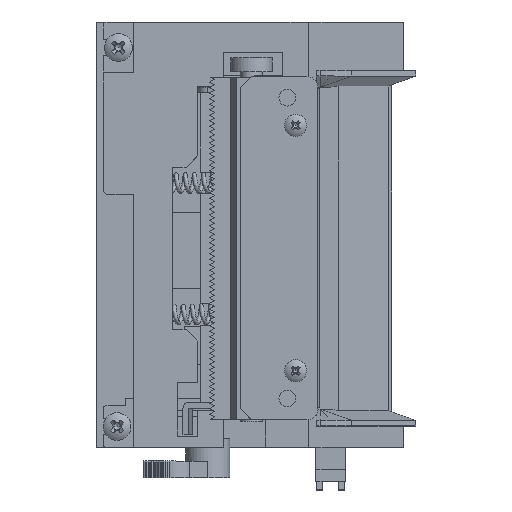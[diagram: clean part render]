
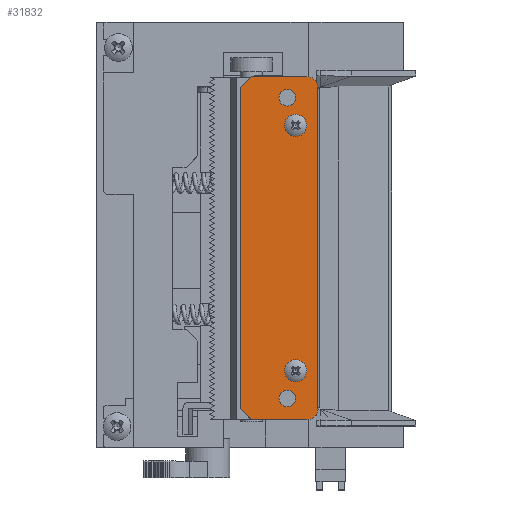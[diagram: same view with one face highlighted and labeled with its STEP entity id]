
A CAD part, top view. The second image highlights one B-rep face of the part: STEP entity #31832.
In plain terms, the highlighted planar face has unit normal (0, 0, 1).
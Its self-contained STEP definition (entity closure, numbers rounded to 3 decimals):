
#1844=FACE_BOUND('',#6540,.T.);
#1845=FACE_BOUND('',#6541,.T.);
#1846=FACE_BOUND('',#6542,.T.);
#1847=FACE_BOUND('',#6543,.T.);
#3037=PLANE('',#34485);
#4692=FACE_OUTER_BOUND('',#6539,.T.);
#6539=EDGE_LOOP('',(#29669,#29670,#29671,#29672,#29673,#29674,#29675,#29676));
#6540=EDGE_LOOP('',(#29677,#29678));
#6541=EDGE_LOOP('',(#29679,#29680));
#6542=EDGE_LOOP('',(#29681));
#6543=EDGE_LOOP('',(#29682));
#9859=LINE('',#59002,#13125);
#9862=LINE('',#59007,#13128);
#9866=LINE('',#59017,#13132);
#9870=LINE('',#59026,#13136);
#9872=LINE('',#59030,#13138);
#9873=LINE('',#59031,#13139);
#13125=VECTOR('',#42567,10.);
#13128=VECTOR('',#42572,10.);
#13132=VECTOR('',#42582,10.);
#13136=VECTOR('',#42592,10.);
#13138=VECTOR('',#42598,10.);
#13139=VECTOR('',#42599,10.);
#13960=CIRCLE('',#34318,2.);
#13961=CIRCLE('',#34319,2.);
#13994=CIRCLE('',#34379,2.);
#13995=CIRCLE('',#34380,2.);
#14045=CIRCLE('',#34470,1.5);
#14046=CIRCLE('',#34472,1.5);
#14048=CIRCLE('',#34479,2.);
#14049=CIRCLE('',#34482,2.);
#16789=VERTEX_POINT('',#57637);
#16790=VERTEX_POINT('',#57638);
#16838=VERTEX_POINT('',#58278);
#16839=VERTEX_POINT('',#58279);
#16904=VERTEX_POINT('',#58982);
#16905=VERTEX_POINT('',#58986);
#16909=VERTEX_POINT('',#58999);
#16910=VERTEX_POINT('',#59001);
#16911=VERTEX_POINT('',#59006);
#16912=VERTEX_POINT('',#59010);
#16913=VERTEX_POINT('',#59012);
#16914=VERTEX_POINT('',#59016);
#16915=VERTEX_POINT('',#59020);
#16916=VERTEX_POINT('',#59024);
#21036=EDGE_CURVE('',#16789,#16790,#13960,.T.);
#21037=EDGE_CURVE('',#16790,#16789,#13961,.T.);
#21109=EDGE_CURVE('',#16838,#16839,#13994,.T.);
#21110=EDGE_CURVE('',#16839,#16838,#13995,.T.);
#21216=EDGE_CURVE('',#16904,#16904,#14045,.T.);
#21218=EDGE_CURVE('',#16905,#16905,#14046,.T.);
#21224=EDGE_CURVE('',#16910,#16909,#9859,.T.);
#21227=EDGE_CURVE('',#16911,#16910,#9862,.T.);
#21230=EDGE_CURVE('',#16913,#16912,#14048,.T.);
#21232=EDGE_CURVE('',#16914,#16913,#9866,.T.);
#21234=EDGE_CURVE('',#16915,#16914,#14049,.T.);
#21237=EDGE_CURVE('',#16909,#16916,#9870,.T.);
#21239=EDGE_CURVE('',#16916,#16915,#9872,.T.);
#21240=EDGE_CURVE('',#16912,#16911,#9873,.T.);
#29669=ORIENTED_EDGE('',*,*,#21237,.T.);
#29670=ORIENTED_EDGE('',*,*,#21239,.T.);
#29671=ORIENTED_EDGE('',*,*,#21234,.T.);
#29672=ORIENTED_EDGE('',*,*,#21232,.T.);
#29673=ORIENTED_EDGE('',*,*,#21230,.T.);
#29674=ORIENTED_EDGE('',*,*,#21240,.T.);
#29675=ORIENTED_EDGE('',*,*,#21227,.T.);
#29676=ORIENTED_EDGE('',*,*,#21224,.T.);
#29677=ORIENTED_EDGE('',*,*,#21036,.T.);
#29678=ORIENTED_EDGE('',*,*,#21037,.T.);
#29679=ORIENTED_EDGE('',*,*,#21109,.T.);
#29680=ORIENTED_EDGE('',*,*,#21110,.T.);
#29681=ORIENTED_EDGE('',*,*,#21216,.T.);
#29682=ORIENTED_EDGE('',*,*,#21218,.T.);
#31832=ADVANCED_FACE('',(#4692,#1844,#1845,#1846,#1847),#3037,.T.);
#34318=AXIS2_PLACEMENT_3D('',#57639,#42197,#42198);
#34319=AXIS2_PLACEMENT_3D('',#57640,#42199,#42200);
#34379=AXIS2_PLACEMENT_3D('',#58280,#42334,#42335);
#34380=AXIS2_PLACEMENT_3D('',#58281,#42336,#42337);
#34470=AXIS2_PLACEMENT_3D('',#58984,#42548,#42549);
#34472=AXIS2_PLACEMENT_3D('',#58988,#42553,#42554);
#34479=AXIS2_PLACEMENT_3D('',#59013,#42577,#42578);
#34482=AXIS2_PLACEMENT_3D('',#59021,#42586,#42587);
#34485=AXIS2_PLACEMENT_3D('',#59029,#42596,#42597);
#42197=DIRECTION('center_axis',(0.,0.,-1.));
#42198=DIRECTION('ref_axis',(1.,0.,0.));
#42199=DIRECTION('center_axis',(0.,0.,-1.));
#42200=DIRECTION('ref_axis',(1.,0.,0.));
#42334=DIRECTION('center_axis',(0.,0.,-1.));
#42335=DIRECTION('ref_axis',(1.,0.,0.));
#42336=DIRECTION('center_axis',(0.,0.,-1.));
#42337=DIRECTION('ref_axis',(1.,0.,0.));
#42548=DIRECTION('center_axis',(0.,0.,-1.));
#42549=DIRECTION('ref_axis',(1.,0.,0.));
#42553=DIRECTION('center_axis',(0.,0.,-1.));
#42554=DIRECTION('ref_axis',(1.,0.,0.));
#42567=DIRECTION('',(0.,-1.,0.));
#42572=DIRECTION('',(-0.707,-0.707,0.));
#42577=DIRECTION('center_axis',(0.,0.,1.));
#42578=DIRECTION('ref_axis',(-1.,0.,0.));
#42582=DIRECTION('',(0.,1.,0.));
#42586=DIRECTION('center_axis',(0.,0.,1.));
#42587=DIRECTION('ref_axis',(0.,1.,0.));
#42592=DIRECTION('',(0.707,-0.707,0.));
#42596=DIRECTION('center_axis',(0.,0.,1.));
#42597=DIRECTION('ref_axis',(-1.,0.,0.));
#42598=DIRECTION('',(1.,0.,0.));
#42599=DIRECTION('',(-1.,0.,0.));
#57637=CARTESIAN_POINT('',(0.429,53.15,12.145));
#57638=CARTESIAN_POINT('',(-3.571,53.15,12.145));
#57639=CARTESIAN_POINT('Origin',(-1.571,53.15,12.145));
#57640=CARTESIAN_POINT('Origin',(-1.571,53.15,12.145));
#58278=CARTESIAN_POINT('',(0.429,8.85,12.145));
#58279=CARTESIAN_POINT('',(-3.571,8.85,12.145));
#58280=CARTESIAN_POINT('Origin',(-1.571,8.85,12.145));
#58281=CARTESIAN_POINT('Origin',(-1.571,8.85,12.145));
#58982=CARTESIAN_POINT('',(-4.571,58.15,12.145));
#58984=CARTESIAN_POINT('Origin',(-3.071,58.15,12.145));
#58986=CARTESIAN_POINT('',(-4.571,3.85,12.145));
#58988=CARTESIAN_POINT('Origin',(-3.071,3.85,12.145));
#58999=CARTESIAN_POINT('',(-11.571,2.,12.145));
#59001=CARTESIAN_POINT('',(-11.571,60.,12.145));
#59002=CARTESIAN_POINT('',(-11.571,2.,12.145));
#59006=CARTESIAN_POINT('',(-9.571,62.,12.145));
#59007=CARTESIAN_POINT('',(-11.571,60.,12.145));
#59010=CARTESIAN_POINT('',(0.429,62.,12.145));
#59012=CARTESIAN_POINT('',(2.429,60.,12.145));
#59013=CARTESIAN_POINT('Origin',(0.429,60.,12.145));
#59016=CARTESIAN_POINT('',(2.429,2.,12.145));
#59017=CARTESIAN_POINT('',(2.429,60.,12.145));
#59020=CARTESIAN_POINT('',(0.429,0.,12.145));
#59021=CARTESIAN_POINT('Origin',(0.429,2.,12.145));
#59024=CARTESIAN_POINT('',(-9.571,0.,12.145));
#59026=CARTESIAN_POINT('',(-9.571,0.,12.145));
#59029=CARTESIAN_POINT('Origin',(-4.601,31.,12.145));
#59030=CARTESIAN_POINT('',(0.429,0.,12.145));
#59031=CARTESIAN_POINT('',(-9.571,62.,12.145));
